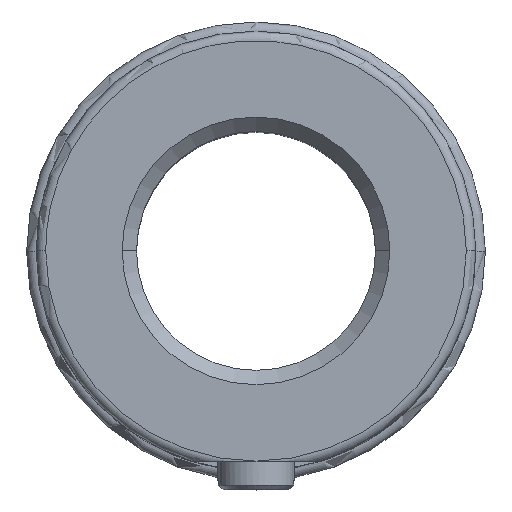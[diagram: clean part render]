
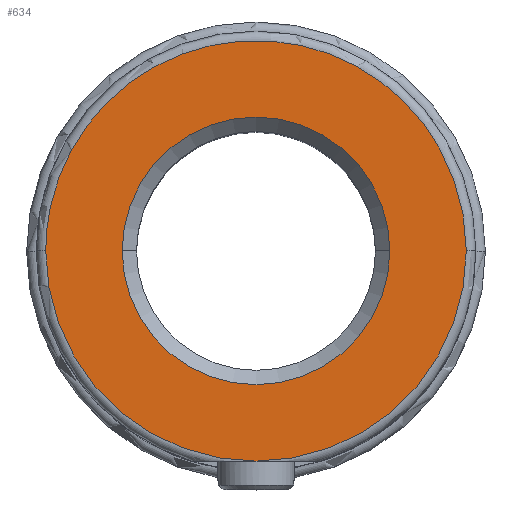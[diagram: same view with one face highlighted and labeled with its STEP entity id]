
A CAD part, top view. The second image highlights one B-rep face of the part: STEP entity #634.
In plain terms, the highlighted planar face has unit normal (0, 0, 1).
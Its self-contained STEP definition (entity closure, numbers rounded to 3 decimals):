
#285=CARTESIAN_POINT('Vertex',(0.,-22.,36.)) ;
#398=CARTESIAN_POINT('Vertex',(-14.,0.,36.)) ;
#401=CARTESIAN_POINT('Axis2P3D Location',(0.,0.,36.)) ;
#405=CARTESIAN_POINT('Vertex',(14.,0.,36.)) ;
#493=CARTESIAN_POINT('Vertex',(22.,0.,36.)) ;
#496=CARTESIAN_POINT('Axis2P3D Location',(0.,0.,36.)) ;
#517=CARTESIAN_POINT('Vertex',(-22.,0.,36.)) ;
#520=CARTESIAN_POINT('Axis2P3D Location',(0.,0.,36.)) ;
#582=CARTESIAN_POINT('Axis2P3D Location',(0.,0.,36.)) ;
#594=CARTESIAN_POINT('Axis2P3D Location',(-14.,0.,36.)) ;
#600=CARTESIAN_POINT('Control Point',(22.,0.,36.)) ;
#601=CARTESIAN_POINT('Control Point',(22.,2.068,36.)) ;
#602=CARTESIAN_POINT('Control Point',(21.757,4.136,36.)) ;
#603=CARTESIAN_POINT('Control Point',(21.271,6.166,36.)) ;
#604=CARTESIAN_POINT('Control Point',(19.831,10.074,36.)) ;
#605=CARTESIAN_POINT('Control Point',(17.525,13.541,36.)) ;
#606=CARTESIAN_POINT('Control Point',(16.172,15.131,36.)) ;
#607=CARTESIAN_POINT('Control Point',(13.118,17.963,36.)) ;
#608=CARTESIAN_POINT('Control Point',(9.492,20.01,36.)) ;
#609=CARTESIAN_POINT('Control Point',(7.565,20.814,36.)) ;
#610=CARTESIAN_POINT('Control Point',(3.561,21.956,36.)) ;
#611=CARTESIAN_POINT('Control Point',(-0.6,22.139,36.)) ;
#612=CARTESIAN_POINT('Control Point',(-2.682,21.984,36.)) ;
#613=CARTESIAN_POINT('Control Point',(-6.769,21.188,36.)) ;
#614=CARTESIAN_POINT('Control Point',(-10.561,19.466,36.)) ;
#615=CARTESIAN_POINT('Control Point',(-12.347,18.385,36.)) ;
#616=CARTESIAN_POINT('Control Point',(-15.631,15.825,36.)) ;
#617=CARTESIAN_POINT('Control Point',(-18.232,12.572,36.)) ;
#618=CARTESIAN_POINT('Control Point',(-19.335,10.8,36.)) ;
#619=CARTESIAN_POINT('Control Point',(-20.824,7.625,36.)) ;
#620=CARTESIAN_POINT('Control Point',(-21.659,4.232,36.)) ;
#621=CARTESIAN_POINT('Control Point',(-21.886,2.829,36.)) ;
#622=CARTESIAN_POINT('Control Point',(-22.,1.415,36.)) ;
#623=CARTESIAN_POINT('Control Point',(-22.,0.,36.)) ;
#402=DIRECTION('Axis2P3D Direction',(0.,-0.,1.)) ;
#497=DIRECTION('Axis2P3D Direction',(0.,-0.,1.)) ;
#521=DIRECTION('Axis2P3D Direction',(0.,-0.,1.)) ;
#583=DIRECTION('Axis2P3D Direction',(0.,-0.,1.)) ;
#595=DIRECTION('Axis2P3D Direction',(0.,0.,-1.)) ;
#596=DIRECTION('Axis2P3D XDirection',(-1.,0.,-0.)) ;
#403=AXIS2_PLACEMENT_3D('Circle Axis2P3D',#401,#402,$) ;
#498=AXIS2_PLACEMENT_3D('Circle Axis2P3D',#496,#497,$) ;
#522=AXIS2_PLACEMENT_3D('Circle Axis2P3D',#520,#521,$) ;
#584=AXIS2_PLACEMENT_3D('Circle Axis2P3D',#582,#583,$) ;
#597=AXIS2_PLACEMENT_3D('Plane Axis2P3D',#594,#595,#596) ;
#626=ORIENTED_EDGE('',*,*,#500,.T.) ;
#627=ORIENTED_EDGE('',*,*,#624,.T.) ;
#628=ORIENTED_EDGE('',*,*,#524,.T.) ;
#631=ORIENTED_EDGE('',*,*,#586,.F.) ;
#632=ORIENTED_EDGE('',*,*,#407,.F.) ;
#633=FACE_BOUND('',#630,.T.) ;
#634=ADVANCED_FACE('744-25 sol1',(#629,#633),#598,.F.) ;
#599=B_SPLINE_CURVE_WITH_KNOTS('',5,(#600,#601,#602,#603,#604,#605,#606,#607,#608,#609,#610,#611,#612,#613,#614,#615,#616,#617,#618,#619,#620,#621,#622,#623),.UNSPECIFIED.,.F.,.U.,(6,3,3,3,3,3,3,6),(0.,14.623,29.246,43.869,58.493,73.116,87.739,97.743),.UNSPECIFIED.) ;
#404=CIRCLE('generated circle',#403,14.) ;
#499=CIRCLE('generated circle',#498,22.) ;
#523=CIRCLE('generated circle',#522,22.) ;
#585=CIRCLE('generated circle',#584,14.) ;
#407=EDGE_CURVE('',#399,#406,#404,.T.) ;
#500=EDGE_CURVE('',#286,#494,#499,.T.) ;
#524=EDGE_CURVE('',#518,#286,#523,.T.) ;
#586=EDGE_CURVE('',#406,#399,#585,.T.) ;
#624=EDGE_CURVE('',#494,#518,#599,.T.) ;
#625=EDGE_LOOP('',(#626,#627,#628)) ;
#630=EDGE_LOOP('',(#631,#632)) ;
#629=FACE_OUTER_BOUND('',#625,.T.) ;
#598=PLANE('Plane',#597) ;
#286=VERTEX_POINT('',#285) ;
#399=VERTEX_POINT('',#398) ;
#406=VERTEX_POINT('',#405) ;
#494=VERTEX_POINT('',#493) ;
#518=VERTEX_POINT('',#517) ;
